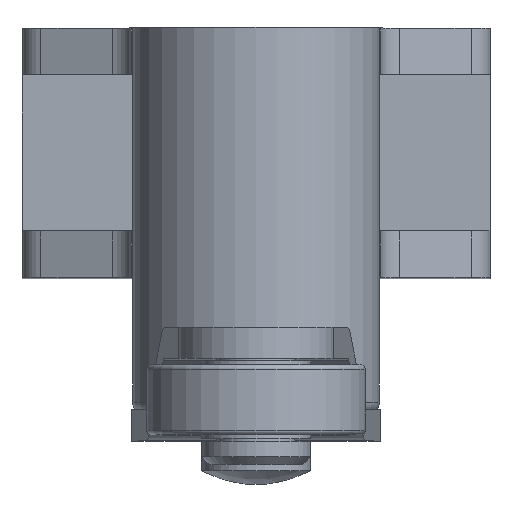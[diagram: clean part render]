
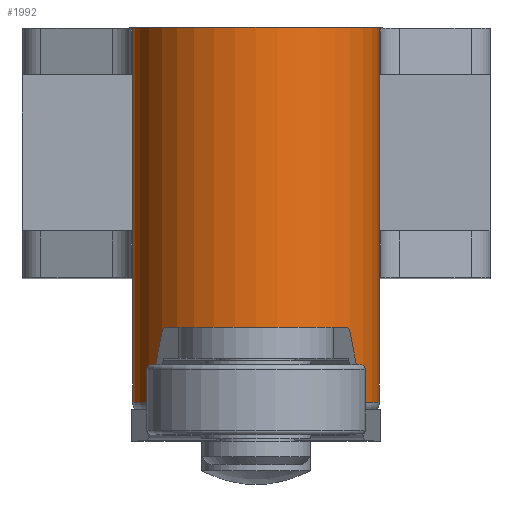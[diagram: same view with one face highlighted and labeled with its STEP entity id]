
A CAD part, top view. The second image highlights one B-rep face of the part: STEP entity #1992.
In plain terms, the highlighted cylindrical face has radius 7.9 mm (diameter 15.8 mm), a full revolution.
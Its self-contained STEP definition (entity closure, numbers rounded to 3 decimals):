
#356=FACE_OUTER_BOUND('',#495,.T.);
#495=EDGE_LOOP('',(#1804,#1805,#1806,#1807,#1808,#1809,#1810));
#629=LINE('',#3477,#767);
#630=LINE('',#3479,#768);
#631=LINE('',#3483,#769);
#767=VECTOR('',#2881,7.9);
#768=VECTOR('',#2882,10.);
#769=VECTOR('',#2885,10.);
#872=CIRCLE('',#2294,7.9);
#876=CIRCLE('',#2300,7.9);
#877=CIRCLE('',#2301,7.9);
#1038=VERTEX_POINT('',#3467);
#1041=VERTEX_POINT('',#3476);
#1042=VERTEX_POINT('',#3478);
#1043=VERTEX_POINT('',#3480);
#1044=VERTEX_POINT('',#3482);
#1293=EDGE_CURVE('',#1038,#1038,#872,.T.);
#1297=EDGE_CURVE('',#1038,#1041,#629,.T.);
#1298=EDGE_CURVE('',#1042,#1041,#630,.T.);
#1299=EDGE_CURVE('',#1043,#1042,#876,.T.);
#1300=EDGE_CURVE('',#1043,#1044,#631,.T.);
#1301=EDGE_CURVE('',#1041,#1044,#877,.T.);
#1804=ORIENTED_EDGE('',*,*,#1293,.F.);
#1805=ORIENTED_EDGE('',*,*,#1297,.T.);
#1806=ORIENTED_EDGE('',*,*,#1298,.F.);
#1807=ORIENTED_EDGE('',*,*,#1299,.F.);
#1808=ORIENTED_EDGE('',*,*,#1300,.T.);
#1809=ORIENTED_EDGE('',*,*,#1301,.F.);
#1810=ORIENTED_EDGE('',*,*,#1297,.F.);
#1879=CYLINDRICAL_SURFACE('',#2299,7.9);
#1992=ADVANCED_FACE('',(#356),#1879,.T.);
#2294=AXIS2_PLACEMENT_3D('',#3468,#2869,#2870);
#2299=AXIS2_PLACEMENT_3D('',#3475,#2879,#2880);
#2300=AXIS2_PLACEMENT_3D('',#3481,#2883,#2884);
#2301=AXIS2_PLACEMENT_3D('',#3484,#2886,#2887);
#2869=DIRECTION('center_axis',(0.,0.,1.));
#2870=DIRECTION('ref_axis',(-1.,0.,0.));
#2879=DIRECTION('center_axis',(0.,0.,1.));
#2880=DIRECTION('ref_axis',(-1.,0.,0.));
#2881=DIRECTION('',(0.,0.,-1.));
#2882=DIRECTION('',(0.,0.,1.));
#2883=DIRECTION('center_axis',(0.,0.,-1.));
#2884=DIRECTION('ref_axis',(-1.,0.,0.));
#2885=DIRECTION('',(0.,0.,1.));
#2886=DIRECTION('center_axis',(0.,0.,-1.));
#2887=DIRECTION('ref_axis',(-1.,0.,0.));
#3467=CARTESIAN_POINT('',(7.9,4.5,24.));
#3468=CARTESIAN_POINT('Origin',(0.,4.5,24.));
#3475=CARTESIAN_POINT('Origin',(0.,4.5,0.));
#3476=CARTESIAN_POINT('',(7.9,4.5,16.));
#3477=CARTESIAN_POINT('',(7.9,4.5,0.));
#3478=CARTESIAN_POINT('',(7.9,4.5,0.));
#3479=CARTESIAN_POINT('',(7.9,4.5,0.));
#3480=CARTESIAN_POINT('',(-7.9,4.5,0.));
#3481=CARTESIAN_POINT('Origin',(0.,4.5,0.));
#3482=CARTESIAN_POINT('',(-7.9,4.5,16.));
#3483=CARTESIAN_POINT('',(-7.9,4.5,0.));
#3484=CARTESIAN_POINT('Origin',(0.,4.5,16.));
